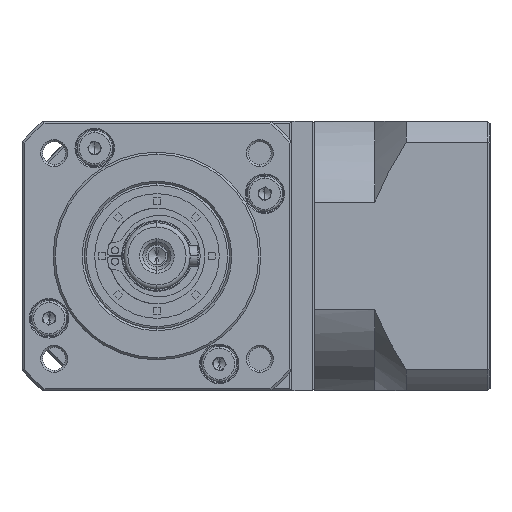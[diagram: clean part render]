
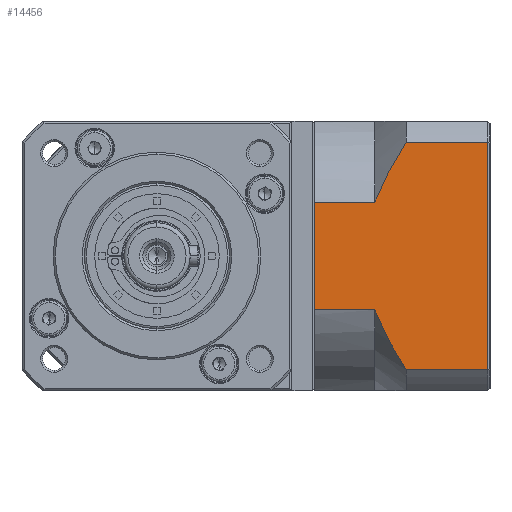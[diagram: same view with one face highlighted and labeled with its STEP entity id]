
A CAD part, left-side view. The second image highlights one B-rep face of the part: STEP entity #14456.
In plain terms, the highlighted planar face has unit normal (-1, 0, 0).
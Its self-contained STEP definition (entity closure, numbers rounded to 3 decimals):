
#526 = CARTESIAN_POINT ( 'NONE',  ( -45.204, -67.359, -155.953 ) ) ;
#1562 = CARTESIAN_POINT ( 'NONE',  ( -45.204, -62.708, -160.535 ) ) ;
#4902 = VERTEX_POINT ( 'NONE', #70653 ) ;
#9274 = CARTESIAN_POINT ( 'NONE',  ( -45.204, -67.375, -110.387 ) ) ;
#11330 = VECTOR ( 'NONE', #145399, 1000. ) ;
#12265 = VECTOR ( 'NONE', #92450, 1000. ) ;
#13044 = CARTESIAN_POINT ( 'NONE',  ( -45.204, -62.946, -146.782 ) ) ;
#13588 = CARTESIAN_POINT ( 'NONE',  ( -45.204, -70.208, -160.535 ) ) ;
#14456 = ADVANCED_FACE ( 'NONE', ( #54562 ), #124237, .F. ) ;
#16689 = EDGE_CURVE ( 'NONE', #4902, #31474, #35860, .T. ) ;
#17043 = VERTEX_POINT ( 'NONE', #112654 ) ;
#19886 = EDGE_CURVE ( 'NONE', #113808, #17043, #86201, .T. ) ;
#22176 = CARTESIAN_POINT ( 'NONE',  ( -45.204, -64.795, -115.169 ) ) ;
#25941 = CARTESIAN_POINT ( 'NONE',  ( -45.204, -62.708, -146.14 ) ) ;
#29488 = CARTESIAN_POINT ( 'NONE',  ( -45.204, -89.908, -165.649 ) ) ;
#31474 = VERTEX_POINT ( 'NONE', #85071 ) ;
#31849 = CARTESIAN_POINT ( 'NONE',  ( -45.204, -62.708, -120.159 ) ) ;
#34660 = CARTESIAN_POINT ( 'NONE',  ( -45.204, -90.408, -165.649 ) ) ;
#35157 = CARTESIAN_POINT ( 'NONE',  ( -45.204, -62.708, -120.159 ) ) ;
#35860 = LINE ( 'NONE', #62365, #66235 ) ;
#39309 = CARTESIAN_POINT ( 'NONE',  ( -45.204, -70.208, -105.763 ) ) ;
#47644 = CARTESIAN_POINT ( 'NONE',  ( -45.204, -70.208, -105.763 ) ) ;
#47700 = DIRECTION ( 'NONE',  ( 0., 1., 0. ) ) ;
#51975 = CARTESIAN_POINT ( 'NONE',  ( -45.204, -63.199, -147.421 ) ) ;
#52591 = CARTESIAN_POINT ( 'NONE',  ( -45.204, -62.708, -105.763 ) ) ;
#53147 = DIRECTION ( 'NONE',  ( 0., -1., 0. ) ) ;
#53152 = CARTESIAN_POINT ( 'NONE',  ( -45.204, -62.708, -120.159 ) ) ;
#54562 = FACE_OUTER_BOUND ( 'NONE', #89476, .T. ) ;
#54757 = VECTOR ( 'NONE', #164723, 1000. ) ;
#57981 = CARTESIAN_POINT ( 'NONE',  ( -45.204, -89.908, -160.535 ) ) ;
#61495 = VERTEX_POINT ( 'NONE', #39309 ) ;
#62365 = CARTESIAN_POINT ( 'NONE',  ( -45.204, -48.208, -165.649 ) ) ;
#64962 = CARTESIAN_POINT ( 'NONE',  ( -45.204, -63.998, -149.306 ) ) ;
#66235 = VECTOR ( 'NONE', #165048, 1000. ) ;
#70653 = CARTESIAN_POINT ( 'NONE',  ( -45.204, -48.208, -120.159 ) ) ;
#74324 = CARTESIAN_POINT ( 'NONE',  ( -45.204, -62.708, -146.14 ) ) ;
#77857 = CARTESIAN_POINT ( 'NONE',  ( -45.204, -65.454, -152.372 ) ) ;
#78868 = DIRECTION ( 'NONE',  ( 0., 1., 0. ) ) ;
#85071 = CARTESIAN_POINT ( 'NONE',  ( -45.204, -48.208, -146.14 ) ) ;
#86201 = B_SPLINE_CURVE_WITH_KNOTS ( 'NONE', 3,
 ( #25941, #13044, #51975, #141917, #64962, #154734, #77857, #526, #90724, #13588 ),
 .UNSPECIFIED., .F., .F.,
 ( 4, 2, 2, 2, 4 ),
 ( 0.101, 0.103, 0.105, 0.109, 0.117 ),
 .UNSPECIFIED. ) ;
#86372 = CARTESIAN_POINT ( 'NONE',  ( -45.204, -68.759, -108.052 ) ) ;
#89476 = EDGE_LOOP ( 'NONE', ( #106447, #114850, #118545, #119905, #123194, #134972, #139853, #140565 ) ) ;
#89897 = LINE ( 'NONE', #1562, #124169 ) ;
#90442 = LINE ( 'NONE', #52591, #124700 ) ;
#90724 = CARTESIAN_POINT ( 'NONE',  ( -45.204, -68.746, -158.267 ) ) ;
#91361 = EDGE_CURVE ( 'NONE', #161836, #159857, #156254, .T. ) ;
#92450 = DIRECTION ( 'NONE',  ( 0., -1., 0. ) ) ;
#97784 = VERTEX_POINT ( 'NONE', #31849 ) ;
#99443 = CARTESIAN_POINT ( 'NONE',  ( -45.204, -66.705, -111.573 ) ) ;
#100891 = CARTESIAN_POINT ( 'NONE',  ( -45.204, -89.908, -105.763 ) ) ;
#106347 = EDGE_CURVE ( 'NONE', #113808, #31474, #123204, .T. ) ;
#106447 = ORIENTED_EDGE ( 'NONE', *, *, #160177, .F. ) ;
#111794 = EDGE_CURVE ( 'NONE', #4902, #97784, #115118, .T. ) ;
#112426 = CARTESIAN_POINT ( 'NONE',  ( -45.204, -63.65, -117.621 ) ) ;
#112654 = CARTESIAN_POINT ( 'NONE',  ( -45.204, -70.208, -160.535 ) ) ;
#113808 = VERTEX_POINT ( 'NONE', #136756 ) ;
#114850 = ORIENTED_EDGE ( 'NONE', *, *, #91361, .T. ) ;
#115118 = LINE ( 'NONE', #53152, #12265 ) ;
#118545 = ORIENTED_EDGE ( 'NONE', *, *, #163420, .F. ) ;
#119905 = ORIENTED_EDGE ( 'NONE', *, *, #137579, .T. ) ;
#123194 = ORIENTED_EDGE ( 'NONE', *, *, #111794, .F. ) ;
#123204 = LINE ( 'NONE', #74324, #54757 ) ;
#124169 = VECTOR ( 'NONE', #78868, 1000. ) ;
#124237 = PLANE ( 'NONE',  #141608 ) ;
#124700 = VECTOR ( 'NONE', #53147, 1000. ) ;
#124714 = CARTESIAN_POINT ( 'NONE',  ( -45.204, -69.475, -106.901 ) ) ;
#124778 = DIRECTION ( 'NONE',  ( 1., 0., 0. ) ) ;
#134972 = ORIENTED_EDGE ( 'NONE', *, *, #16689, .T. ) ;
#136756 = CARTESIAN_POINT ( 'NONE',  ( -45.204, -62.708, -146.14 ) ) ;
#137579 = EDGE_CURVE ( 'NONE', #61495, #97784, #146363, .T. ) ;
#139853 = ORIENTED_EDGE ( 'NONE', *, *, #106347, .F. ) ;
#140565 = ORIENTED_EDGE ( 'NONE', *, *, #19886, .T. ) ;
#141608 = AXIS2_PLACEMENT_3D ( 'NONE', #34660, #124778, #47700 ) ;
#141917 = CARTESIAN_POINT ( 'NONE',  ( -45.204, -63.725, -148.682 ) ) ;
#145399 = DIRECTION ( 'NONE',  ( 0., 0., 1. ) ) ;
#146363 = B_SPLINE_CURVE_WITH_KNOTS ( 'NONE', 3,
 ( #47644, #124714, #86372, #9274, #99443, #22176, #112426, #35157 ),
 .UNSPECIFIED., .F., .F.,
 ( 4, 2, 2, 4 ),
 ( 0.058, 0.062, 0.066, 0.074 ),
 .UNSPECIFIED. ) ;
#154734 = CARTESIAN_POINT ( 'NONE',  ( -45.204, -64.849, -151.16 ) ) ;
#156254 = LINE ( 'NONE', #29488, #11330 ) ;
#159857 = VERTEX_POINT ( 'NONE', #100891 ) ;
#160177 = EDGE_CURVE ( 'NONE', #161836, #17043, #89897, .T. ) ;
#161836 = VERTEX_POINT ( 'NONE', #57981 ) ;
#163420 = EDGE_CURVE ( 'NONE', #61495, #159857, #90442, .T. ) ;
#164723 = DIRECTION ( 'NONE',  ( 0., 1., 0. ) ) ;
#165048 = DIRECTION ( 'NONE',  ( 0., 0., -1. ) ) ;
